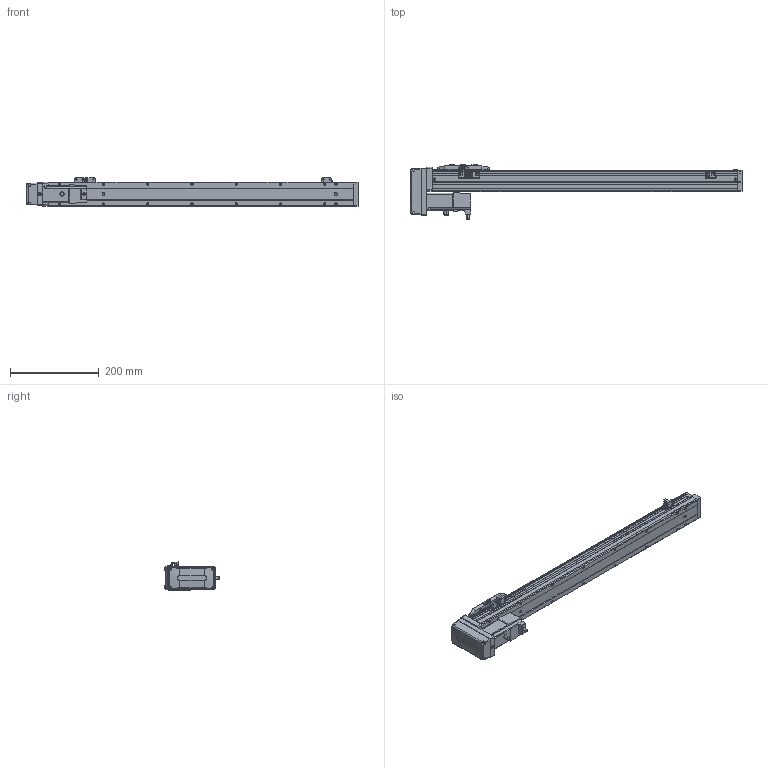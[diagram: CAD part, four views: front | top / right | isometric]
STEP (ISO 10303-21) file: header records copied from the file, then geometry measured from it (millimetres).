
FILE_DESCRIPTION (( 'STEP AP203' ), '1' );
FILE_NAME ('CTH5-L10-S550-BM-C10(¼ò).STEP', '2023-02-04T02:21:19', ( '' ), ( '' ), 'SwSTEP 2.0', 'SolidWorks 2018', '' );
FILE_SCHEMA (( 'CONFIG_CONTROL_DESIGN' ));
Length unit declared in the file: millimetre
Products named in the file (22): 100W萇儂; CTH嫖萇羲壽假蚾啣; CTH5耜晚蹟隊-1; CTH5賑怢; CTH5ヶ耜啣(潠); PM-Y45; hex nuts, style 1-grades ab gb_GB_FASTENER_NUT_SNAB1 M3-N; CTH5耜晚蹟隊; CTH5-L10-S550-BM-C10(潠); M3｡｣; 内六角圆柱头螺钉M3-2; 嫖萇羲壽郪磁1; 葩璃 蚾饜极16^CTH5-L10-S550-BM-C10(潠); CTH5菁釱-L690; CTH5耜蚾欶; CTH5綴耜啣; CTH5-BL-T10_body5; T10-p1; CTH5覜茼え; CTH100W假蚾啣; 葩璃 蚾饜极13^CTH8-L10-S50-BM-C40(潠)1; CTH5耜蚾蟀諉啣(潠)
Assembly tree (37 placements, depth 4):
  CTH5-L10-S550-BM-C10(潠)
    CTH5綴耜啣
    CTH5賑怢
    CTH5ヶ耜啣(潠)
    CTH5菁釱-L690
    CTH5耜晚蹟隊  x2
    嫖萇羲壽郪磁1  x2
      CTH嫖萇羲壽假蚾啣
      PM-Y45
      M3｡｣
      内六角圆柱头螺钉M3-2
      hex nuts, style 1-grades ab gb_GB_FASTENER_NUT_SNAB1 M3-N
    CTH5覜茼え
    葩璃 蚾饜极13^CTH8-L10-S50-BM-C40(潠)1
      CTH嫖萇羲壽假蚾啣
      PM-Y45
      内六角圆柱头螺钉M3-2  x2
      M3｡｣  x2
      hex nuts, style 1-grades ab gb_GB_FASTENER_NUT_SNAB1 M3-N  x2
    CTH5耜晚蹟隊-1  x4
    葩璃 蚾饜极16^CTH5-L10-S550-BM-C10(潠)
      CTH5耜蚾蟀諉啣(潠)
      CTH5耜蚾欶
        CTH5-BL-T10_body5
      100W萇儂
        T10-p1
      CTH100W假蚾啣
Bounding box: 750 x 122.21 x 63.3 mm (x, y, z)
Volume: 1868291.7 mm3; surface area: 268323.3 mm2
Topology: 39 solids, 39 shells, 1619 faces, 4067 edges, 2624 vertices
Faces by surface type: plane 890, cylinder 472, cone 199, torus 40, bspline 18
Entity records: 37873 total; most frequent: CARTESIAN_POINT 7016, DIRECTION 5991, ORIENTED_EDGE 5758, EDGE_CURVE 2879, AXIS2_PLACEMENT_3D 2066, VECTOR 1859, LINE 1859, VERTEX_POINT 1852
